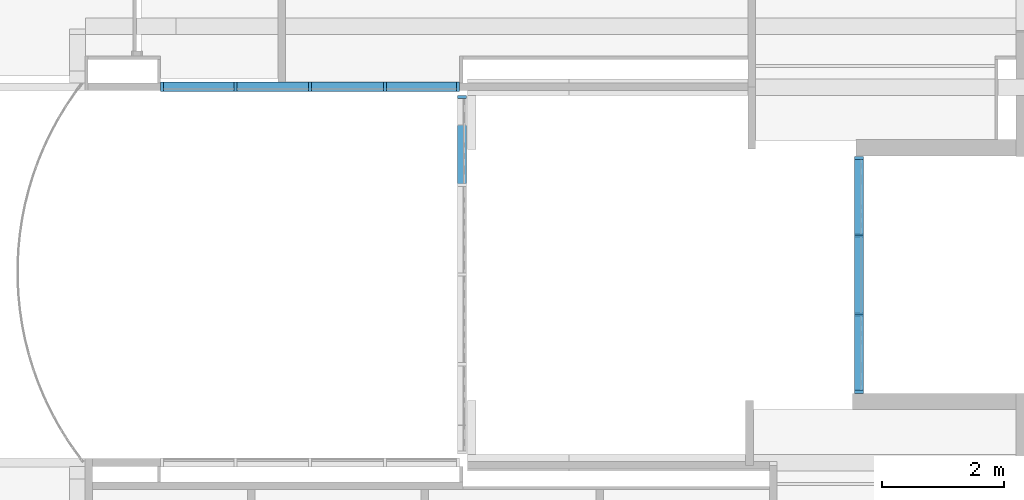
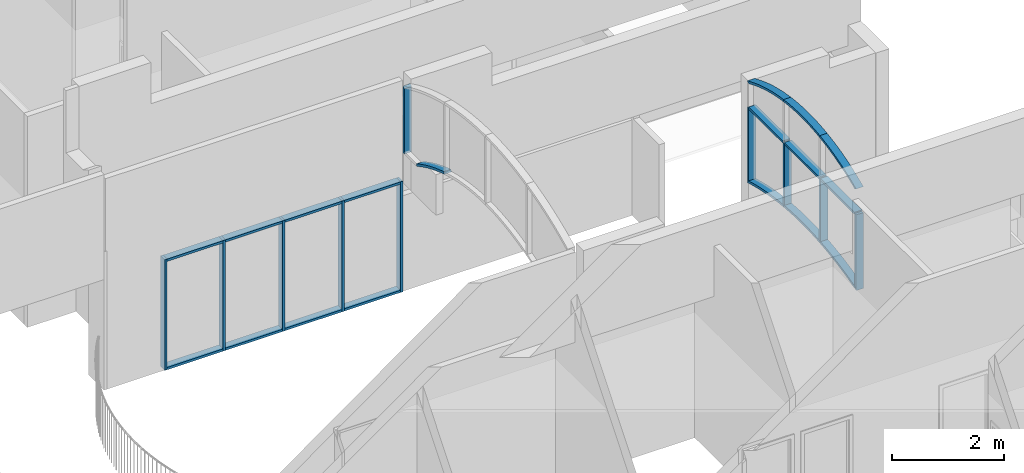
# One storey, part 3 of 45: 28 members, 3 elements without a shape of their own.
"""IFC2X3 building model written with IfcOpenShell, lengths in metres."""

from ifc_helpers import new_model, entity, si_unit, converted_unit, frame, frame_2d, origin, origin_2d_with_axis, place, context, project, spatial, polyline, circle_curve, parameter, trimmed, segment, composite_curve, rectangle, outline, extrude, source, transform, mapped, material, type_object, type_shapes, element, aggregate, save


model = new_model("IFC2X3")

# Units and contexts
model_context = context("Model", 3, precision=1e-09, world=origin())
plan_context = context("Plan", 3, precision=1e-09, world=origin())
ifc_project = project(units=[si_unit("LENGTHUNIT", "METRE"), si_unit("AREAUNIT", "SQUARE_METRE"), si_unit("VOLUMEUNIT", "CUBIC_METRE"), converted_unit("PLANEANGLEUNIT", "DEGREE", entity("IfcRatioMeasure", 0.01745329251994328), si_unit("PLANEANGLEUNIT", "RADIAN"), dimensions=[0, 0, 0, 0, 0, 0, 0]), si_unit("TIMEUNIT", "SECOND")], contexts=[model_context, plan_context])

# Site, building, storey
site_placement = place(None, origin())
site = spatial("IfcSite", under=ifc_project, at=site_placement, Name="Default", CompositionType="ELEMENT")
building_placement = place(site_placement, origin())
building = spatial("IfcBuilding", under=site, at=building_placement, CompositionType="ELEMENT")
storey_placement = place(building_placement, frame((0.0, 0.0, 4.570000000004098)))
storey = spatial("IfcBuildingStorey", under=building, at=storey_placement, Name="Second Floor", CompositionType="ELEMENT", Elevation=4.570000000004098)

# Curtain wall, members
curtain_wall_1_placement = place(storey_placement, origin())
curtain_wall_1 = element("IfcCurtainWall", 1, at=curtain_wall_1_placement, inside=storey, Name="Curtain Wall:Storefront", ObjectType="Curtain Wall:Storefront")
ifc_material = material(Name="Metal - Aluminium")
member_type_1 = type_object("IfcMemberType", Name="50 x 150mm", PredefinedType="MULLION")
shared_shape_1 = source(origin(), model_context, "Body", "SweptSolid", [
    extrude(rectangle(XDim=0.05, YDim=0.15, at=origin_2d_with_axis()), frame((0.0, 0.0, -2.399999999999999), z_axis=(0.0, 0.0, 1.0), x_axis=(-1.0, 0.0, 0.0)), (0.0, 0.0, 1.0), 2.399999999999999),
])
type_shapes(member_type_1, [shared_shape_1])
member_1_placement = place(storey_placement, frame((-11.4271133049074, 34.77180159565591, 0.0), z_axis=(0.0, 0.0, -1.0), x_axis=(-1.0, 0.0, 0.0)))
member_1 = element("IfcMember", 2, at=member_1_placement, type_object=member_type_1, material=ifc_material, Name="Rectangular Mullion:50 x 150mm:50 x 150mm", ObjectType="50 x 150mm", context=model_context, shape_type="MappedRepresentation", body=[
    mapped(shared_shape_1, transform((0.0, 0.0, 0.0), scale=1.0)),
])
member_2_placement = place(storey_placement, frame((-12.649806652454, 34.77180159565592, 0.0), z_axis=(0.0, 0.0, -1.0), x_axis=(-1.0, 0.0, 0.0)))
member_2 = element("IfcMember", 3, at=member_2_placement, type_object=member_type_1, material=ifc_material, Name="Rectangular Mullion:50 x 150mm:50 x 150mm", ObjectType="50 x 150mm", context=model_context, shape_type="MappedRepresentation", body=[
    mapped(shared_shape_1, transform((0.0, 0.0, 0.0), scale=1.0)),
])
member_3_placement = place(storey_placement, frame((-10.20441995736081, 34.7718015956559, 0.0), z_axis=(0.0, 0.0, -1.0), x_axis=(-1.0, 0.0, 0.0)))
member_3 = element("IfcMember", 4, at=member_3_placement, type_object=member_type_1, material=ifc_material, Name="Rectangular Mullion:50 x 150mm:50 x 150mm", ObjectType="50 x 150mm", context=model_context, shape_type="MappedRepresentation", body=[
    mapped(shared_shape_1, transform((0.0, 0.0, 0.0), scale=1.0)),
])
member_type_2 = type_object("IfcMemberType", Name="50 x 150mm", PredefinedType="MULLION")
shared_shape_2 = source(origin(), model_context, "Body", "SweptSolid", [
    extrude(rectangle(XDim=0.05, YDim=0.15, at=origin_2d_with_axis()), frame((-0.025, 0.0, -2.399999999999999), z_axis=(0.0, 0.0, 1.0), x_axis=(-1.0, 0.0, 0.0)), (0.0, 0.0, 1.0), 2.399999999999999),
])
type_shapes(member_type_2, [shared_shape_2])
member_4_placement = place(storey_placement, frame((-13.8725000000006, 34.77180159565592, 0.0), z_axis=(0.0, 0.0, -1.0), x_axis=(-1.0, 0.0, 0.0)))
member_4 = element("IfcMember", 5, at=member_4_placement, type_object=member_type_2, material=ifc_material, Name="Rectangular Mullion:50 x 150mm:50 x 150mm", ObjectType="50 x 150mm", context=model_context, shape_type="MappedRepresentation", body=[
    mapped(shared_shape_2, transform((0.0, 0.0, 0.0), scale=1.0)),
])
member_type_3 = type_object("IfcMemberType", Name="50 x 150mm", PredefinedType="MULLION")
shared_shape_3 = source(origin(), model_context, "Body", "SweptSolid", [
    extrude(rectangle(XDim=0.05, YDim=0.15, at=origin_2d_with_axis()), frame((-0.025, 0.0, -1.172693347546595), z_axis=(0.0, 0.0, 1.0), x_axis=(-1.0, 0.0, 0.0)), (0.0, 0.0, 1.0), 1.172693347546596),
])
type_shapes(member_type_3, [shared_shape_3])
member_5_placement = place(storey_placement, frame((-11.4021133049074, 34.77180159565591, 2.399999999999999), z_axis=(-1.0, 0.0, 0.0), x_axis=(0.0, 0.0, 1.0)))
member_5 = element("IfcMember", 6, at=member_5_placement, type_object=member_type_3, material=ifc_material, Name="Rectangular Mullion:50 x 150mm:50 x 150mm", ObjectType="50 x 150mm", context=model_context, shape_type="MappedRepresentation", body=[
    mapped(shared_shape_3, transform((0.0, 0.0, 0.0), scale=1.0)),
])
member_6_placement = place(storey_placement, frame((-12.624806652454, 34.77180159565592, 2.399999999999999), z_axis=(-1.0, 0.0, 0.0), x_axis=(0.0, 0.0, 1.0)))
member_6 = element("IfcMember", 7, at=member_6_placement, type_object=member_type_3, material=ifc_material, Name="Rectangular Mullion:50 x 150mm:50 x 150mm", ObjectType="50 x 150mm", context=model_context, shape_type="MappedRepresentation", body=[
    mapped(shared_shape_3, transform((0.0, 0.0, 0.0), scale=1.0)),
])
member_type_4 = type_object("IfcMemberType", Name="50 x 150mm", PredefinedType="MULLION")
type_shapes(member_type_4, [shared_shape_3])
member_7_placement = place(storey_placement, frame((-11.4521133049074, 34.77180159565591, 0.0), z_axis=(1.0, 0.0, 0.0), x_axis=(0.0, 0.0, -1.0)))
member_7 = element("IfcMember", 8, at=member_7_placement, type_object=member_type_4, material=ifc_material, Name="Rectangular Mullion:50 x 150mm:50 x 150mm", ObjectType="50 x 150mm", context=model_context, shape_type="MappedRepresentation", body=[
    mapped(shared_shape_3, transform((0.0, 0.0, 0.0), scale=1.0)),
])
member_8_placement = place(storey_placement, frame((-10.22941995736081, 34.7718015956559, 0.0), z_axis=(1.0, 0.0, 0.0), x_axis=(0.0, 0.0, -1.0)))
member_8 = element("IfcMember", 9, at=member_8_placement, type_object=member_type_4, material=ifc_material, Name="Rectangular Mullion:50 x 150mm:50 x 150mm", ObjectType="50 x 150mm", context=model_context, shape_type="MappedRepresentation", body=[
    mapped(shared_shape_3, transform((0.0, 0.0, 0.0), scale=1.0)),
])
member_type_5 = type_object("IfcMemberType", Name="50 x 150mm", PredefinedType="MULLION")
shared_shape_4 = source(origin(), model_context, "Body", "SweptSolid", [
    extrude(rectangle(XDim=0.05, YDim=0.15, at=origin_2d_with_axis()), frame((-0.025, 0.0, -1.147693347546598), z_axis=(0.0, 0.0, 1.0), x_axis=(-1.0, 0.0, 0.0)), (0.0, 0.0, 1.0), 1.147693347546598),
])
type_shapes(member_type_5, [shared_shape_4])
member_9_placement = place(storey_placement, frame((-9.031726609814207, 34.7718015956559, 0.0), z_axis=(1.0, 0.0, 0.0), x_axis=(0.0, 0.0, -1.0)))
member_9 = element("IfcMember", 10, at=member_9_placement, type_object=member_type_5, material=ifc_material, Name="Rectangular Mullion:50 x 150mm:50 x 150mm", ObjectType="50 x 150mm", context=model_context, shape_type="MappedRepresentation", body=[
    mapped(shared_shape_4, transform((0.0, 0.0, 0.0), scale=1.0)),
])
member_10_placement = place(storey_placement, frame((-12.674806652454, 34.77180159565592, 0.0), z_axis=(1.0, 0.0, 0.0), x_axis=(0.0, 0.0, -1.0)))
member_10 = element("IfcMember", 11, at=member_10_placement, type_object=member_type_5, material=ifc_material, Name="Rectangular Mullion:50 x 150mm:50 x 150mm", ObjectType="50 x 150mm", context=model_context, shape_type="MappedRepresentation", body=[
    mapped(shared_shape_4, transform((0.0, 0.0, 0.0), scale=1.0)),
])
member_type_6 = type_object("IfcMemberType", Name="50 x 150mm", PredefinedType="MULLION")
shared_shape_5 = source(origin(), model_context, "Body", "SweptSolid", [
    extrude(rectangle(XDim=0.05, YDim=0.15, at=origin_2d_with_axis()), frame((-0.025, 0.0, -1.147693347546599), z_axis=(0.0, 0.0, 1.0), x_axis=(-1.0, 0.0, 0.0)), (0.0, 0.0, 1.0), 1.147693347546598),
])
type_shapes(member_type_6, [shared_shape_5])
member_11_placement = place(storey_placement, frame((-13.8225000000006, 34.77180159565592, 2.399999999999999), z_axis=(-1.0, 0.0, 0.0), x_axis=(0.0, 0.0, 1.0)))
member_11 = element("IfcMember", 12, at=member_11_placement, type_object=member_type_6, material=ifc_material, Name="Rectangular Mullion:50 x 150mm:50 x 150mm", ObjectType="50 x 150mm", context=model_context, shape_type="MappedRepresentation", body=[
    mapped(shared_shape_5, transform((0.0, 0.0, 0.0), scale=1.0)),
])
member_12_placement = place(storey_placement, frame((-10.17941995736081, 34.7718015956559, 2.399999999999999), z_axis=(-1.0, 0.0, 0.0), x_axis=(0.0, 0.0, 1.0)))
member_12 = element("IfcMember", 13, at=member_12_placement, type_object=member_type_6, material=ifc_material, Name="Rectangular Mullion:50 x 150mm:50 x 150mm", ObjectType="50 x 150mm", context=model_context, shape_type="MappedRepresentation", body=[
    mapped(shared_shape_5, transform((0.0, 0.0, 0.0), scale=1.0)),
])
member_type_7 = type_object("IfcMemberType", Name="50 x 150mm", PredefinedType="MULLION")
shared_shape_6 = source(origin(), model_context, "Body", "SweptSolid", [
    extrude(rectangle(XDim=0.05, YDim=0.15, at=origin_2d_with_axis()), frame((-0.025, 0.0, -2.399999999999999), z_axis=(0.0, 0.0, 1.0), x_axis=(-1.0, 0.0, 0.0)), (0.0, 0.0, 1.0), 2.399999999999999),
])
type_shapes(member_type_7, [shared_shape_6])
member_13_placement = place(storey_placement, frame((-8.981726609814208, 34.7718015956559, 2.399999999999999)))
member_13 = element("IfcMember", 14, at=member_13_placement, type_object=member_type_7, material=ifc_material, Name="Rectangular Mullion:50 x 150mm:50 x 150mm", ObjectType="50 x 150mm", context=model_context, shape_type="MappedRepresentation", body=[
    mapped(shared_shape_6, transform((0.0, 0.0, 0.0), scale=1.0)),
])
aggregate(curtain_wall_1, [member_13, member_1, member_2, member_3, member_9, member_5, member_10, member_11, member_12, member_6, member_7, member_4, member_8])

curtain_wall_2_placement = place(storey_placement, origin())
curtain_wall_2 = element("IfcCurtainWall", 15, at=curtain_wall_2_placement, inside=storey, Name="Curtain Wall:Storefront", ObjectType="Curtain Wall:Storefront")
member_type_8 = type_object("IfcMemberType", Name="50 x 150mm", PredefinedType="MULLION")
shared_shape_7 = source(origin(), model_context, "Body", "SweptSolid", [
    extrude(rectangle(XDim=0.05, YDim=0.15, at=origin_2d_with_axis()), frame((0.0, 0.0, -1.215000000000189), z_axis=(0.0, 0.0, 1.0), x_axis=(-1.0, 0.0, 0.0)), (0.0, 0.0, 1.0), 1.215000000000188),
])
type_shapes(member_type_8, [shared_shape_7])
member_14_placement = place(storey_placement, frame((-2.454499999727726, 32.36499999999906, 2.399999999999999), z_axis=(0.0, -1.0, 0.0), x_axis=(0.0, 0.0, 1.0)))
member_14 = element("IfcMember", 16, at=member_14_placement, type_object=member_type_8, material=ifc_material, Name="Rectangular Mullion:50 x 150mm:50 x 150mm", ObjectType="50 x 150mm", context=model_context, shape_type="MappedRepresentation", body=[
    mapped(shared_shape_7, transform((0.0, 0.0, 0.0), scale=1.0)),
])
member_15_placement = place(storey_placement, frame((-2.45449999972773, 29.8099999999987, 2.399999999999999), z_axis=(0.0, -1.0, 0.0), x_axis=(0.0, 0.0, 1.0)))
member_15 = element("IfcMember", 17, at=member_15_placement, type_object=member_type_8, material=ifc_material, Name="Rectangular Mullion:50 x 150mm:50 x 150mm", ObjectType="50 x 150mm", context=model_context, shape_type="MappedRepresentation", body=[
    mapped(shared_shape_7, transform((0.0, 0.0, 0.0), scale=1.0)),
])
member_type_9 = type_object("IfcMemberType", Name="50 x 150mm", PredefinedType="MULLION")
shared_shape_8 = source(origin(), model_context, "Body", "SweptSolid", [
    extrude(outline(composite_curve([segment(polyline([(-0.4504894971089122, -0.02173768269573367), (0.8971603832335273, -0.02173768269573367)]), True, "CONTINUOUS"), segment(polyline([(0.8971603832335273, -0.02173768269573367), (0.8971603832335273, 0.02826231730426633)]), True, "CONTINUOUS"), segment(polyline([(0.8971603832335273, 0.02826231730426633), (-0.4457875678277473, 0.02826231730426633)]), True, "CONTINUOUS"), segment(trimmed(circle_curve(frame_2d((-7.307025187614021, 0.6482623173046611), x_axis=(0.9955429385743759, 0.09430937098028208)), 6.889193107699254), [parameter(349.176857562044)], [parameter(349.4250503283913)], True, "PARAMETER"), False, "CONTINUOUS"), segment(polyline([(-0.4485376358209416, -0.001453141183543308), (-0.4495060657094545, -0.01159612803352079)]), True, "CONTINUOUS"), segment(polyline([(-0.4495060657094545, -0.01159612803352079), (-0.4504894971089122, -0.02173768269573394)]), True, "CONTINUOUS")], self_intersect=False)), frame((0.003262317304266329, -0.07499999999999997, -0.4983147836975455), z_axis=(0.0, 1.0, 0.0), x_axis=(0.0, 0.0, -1.0)), (0.0, 0.0, 1.0), 0.15),
])
type_shapes(member_type_9, [shared_shape_8])
member_16_placement = place(storey_placement, frame((-2.454499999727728, 31.04999999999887, 1.004524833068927), z_axis=(0.0, 0.0, -1.0), x_axis=(0.0, -1.0, 0.0)))
member_16 = element("IfcMember", 18, at=member_16_placement, type_object=member_type_9, material=ifc_material, Name="Rectangular Mullion:50 x 150mm:50 x 150mm", ObjectType="50 x 150mm", context=model_context, shape_type="MappedRepresentation", body=[
    mapped(shared_shape_8, transform((0.0, 0.0, 0.0), scale=1.0)),
])
member_type_10 = type_object("IfcMemberType", Name="50 x 150mm", PredefinedType="MULLION")
shared_shape_9 = source(origin(), model_context, "Body", "SweptSolid", [
    extrude(outline(composite_curve([segment(polyline([(0.03522795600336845, -0.6399335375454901), (0.08522795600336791, -0.6399335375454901)]), True, "CONTINUOUS"), segment(trimmed(circle_curve(frame_2d((-6.803965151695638, -0.6399335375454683), x_axis=(0.9815489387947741, 0.1912110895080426)), 6.889193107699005), [parameter(348.9765295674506)], [parameter(359.4473398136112)], True, "PARAMETER"), True, "CONTINUOUS"), segment(polyline([(-0.02949349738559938, 0.612071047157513), (-0.0909624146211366, 0.6677960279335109)]), True, "CONTINUOUS"), segment(trimmed(circle_curve(frame_2d((-6.803965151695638, -0.6399335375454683), x_axis=(0.9815489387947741, 0.1912110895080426)), 6.839193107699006), [parameter(348.9765295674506)], [parameter(359.9999999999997)], True, "PARAMETER"), False, "CONTINUOUS")], self_intersect=False)), frame((0.03840594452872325, -0.07499999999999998, -0.6728675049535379), z_axis=(0.0, 1.0, 0.0), x_axis=(-0.9815489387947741, 0.0, -0.1912110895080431)), (0.0, 0.0, 1.0), 0.1499999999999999),
])
type_shapes(member_type_10, [shared_shape_9])
member_17_placement = place(storey_placement, frame((-2.454499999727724, 33.62999999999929, 0.7555657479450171), z_axis=(0.0, 0.9591411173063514, -0.2829281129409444), x_axis=(0.0, -0.2829281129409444, -0.9591411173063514)))
member_17 = element("IfcMember", 19, at=member_17_placement, type_object=member_type_10, material=ifc_material, Name="Rectangular Mullion:50 x 150mm:50 x 150mm", ObjectType="50 x 150mm", context=model_context, shape_type="MappedRepresentation", body=[
    mapped(shared_shape_9, transform((0.0, 0.0, 0.0), scale=1.0)),
])
member_type_11 = type_object("IfcMemberType", Name="50 x 150mm", PredefinedType="MULLION")
shared_shape_10 = source(origin(), model_context, "Body", "SweptSolid", [
    extrude(outline(polyline([(-0.8389368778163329, -0.025), (0.8054973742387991, -0.025), (0.8054973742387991, 0.025), (-0.7720578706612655, 0.025), (-0.8389368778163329, -0.025)])), frame((-0.025, -0.07499999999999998, -0.8389368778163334), z_axis=(0.0, 1.0, 0.0), x_axis=(0.0, 0.0, -1.0)), (0.0, 0.0, 1.0), 0.15),
])
type_shapes(member_type_11, [shared_shape_10])
member_18_placement = place(storey_placement, frame((-2.45449999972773, 29.75999999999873, 0.7555657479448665), z_axis=(0.0, 0.0, -1.0), x_axis=(0.0, -1.0, 0.0)))
member_18 = element("IfcMember", 20, at=member_18_placement, type_object=member_type_11, material=ifc_material, Name="Rectangular Mullion:50 x 150mm:50 x 150mm", ObjectType="50 x 150mm", context=model_context, shape_type="MappedRepresentation", body=[
    mapped(shared_shape_10, transform((0.0, 0.0, 0.0), scale=1.0)),
])
member_type_12 = type_object("IfcMemberType", Name="50 x 150mm", PredefinedType="MULLION")
shared_shape_11 = source(origin(), model_context, "Body", "SweptSolid", [
    extrude(outline(composite_curve([segment(polyline([(-0.1191200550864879, -0.6535333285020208), (-0.06912005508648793, -0.6535333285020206)]), True, "CONTINUOUS"), segment(trimmed(circle_curve(frame_2d((4.53857932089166, -0.6535333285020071), x_axis=(-0.9583864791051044, 0.2854739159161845)), 4.607699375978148), [parameter(0.4004577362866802)], [parameter(16.58717889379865)], True, "PARAMETER"), False, "CONTINUOUS"), segment(polyline([(0.1135368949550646, 0.6309483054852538), (0.07470321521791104, 0.6761183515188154)]), True, "CONTINUOUS"), segment(trimmed(circle_curve(frame_2d((4.53857932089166, -0.6535333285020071), x_axis=(-0.9583864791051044, 0.2854739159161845)), 4.657699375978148), [parameter(3.562221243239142e-13)], [parameter(16.58717889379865)], True, "PARAMETER"), True, "CONTINUOUS")], self_intersect=False)), frame((-0.121419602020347, -0.07499999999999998, -0.6693085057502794), z_axis=(0.0, 1.0, 0.0), x_axis=(-0.9583864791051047, 0.0, 0.2854739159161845)), (0.0, 0.0, 1.0), 0.15),
])
type_shapes(member_type_12, [shared_shape_11])
member_19_placement = place(storey_placement, frame((-2.45449999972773, 29.75999999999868, 2.964012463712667), z_axis=(0.0, -0.9096200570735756, -0.4154411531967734), x_axis=(0.0, -0.4154411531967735, 0.9096200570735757)))
member_19 = element("IfcMember", 21, at=member_19_placement, type_object=member_type_12, material=ifc_material, Name="Rectangular Mullion:50 x 150mm:50 x 150mm", ObjectType="50 x 150mm", context=model_context, shape_type="MappedRepresentation", body=[
    mapped(shared_shape_11, transform((0.0, 0.0, 0.0), scale=1.0)),
])
member_type_13 = type_object("IfcMemberType", Name="50 x 150mm", PredefinedType="MULLION")
shared_shape_12 = source(origin(), model_context, "Body", "SweptSolid", [
    extrude(outline(composite_curve([segment(polyline([(-0.4461808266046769, -0.02409578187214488), (0.8967671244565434, -0.02409578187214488)]), True, "CONTINUOUS"), segment(polyline([(0.8967671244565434, -0.02409578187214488), (0.8967671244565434, 0.02590421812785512)]), True, "CONTINUOUS"), segment(polyline([(0.8967671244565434, 0.02590421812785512), (-0.4508827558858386, 0.02590421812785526)]), True, "CONTINUOUS"), segment(trimmed(circle_curve(frame_2d((-7.30741844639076, -0.6440957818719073), x_axis=(0.9591411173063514, 0.2829281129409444)), 6.889193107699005), [parameter(348.9765295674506)], [parameter(349.1460104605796)], True, "PARAMETER"), False, "CONTINUOUS"), segment(polyline([(-0.4489308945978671, 0.005619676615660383), (-0.4475397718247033, -0.009236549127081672)]), True, "CONTINUOUS"), segment(polyline([(-0.4475397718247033, -0.009236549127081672), (-0.4461808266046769, -0.02409578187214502)]), True, "CONTINUOUS")], self_intersect=False)), frame((0.0009042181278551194, -0.07499999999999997, -0.4987080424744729), z_axis=(0.0, 1.0, 0.0), x_axis=(0.0, 0.0, -1.0)), (0.0, 0.0, 1.0), 0.15),
])
type_shapes(member_type_13, [shared_shape_12])
member_20_placement = place(storey_placement, frame((-2.454499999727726, 32.33999999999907, 1.004524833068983), z_axis=(0.0, 0.0, -1.0), x_axis=(0.0, -1.0, 0.0)))
member_20 = element("IfcMember", 22, at=member_20_placement, type_object=member_type_13, material=ifc_material, Name="Rectangular Mullion:50 x 150mm:50 x 150mm", ObjectType="50 x 150mm", context=model_context, shape_type="MappedRepresentation", body=[
    mapped(shared_shape_12, transform((0.0, 0.0, 0.0), scale=1.0)),
])
member_type_14 = type_object("IfcMemberType", Name="50 x 150mm", PredefinedType="MULLION")
shared_shape_13 = source(origin(), model_context, "Body", "SweptSolid", [
    extrude(outline(composite_curve([segment(trimmed(circle_curve(frame_2d((3.454349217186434, 3.015506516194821), x_axis=(-0.65191805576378, -0.758289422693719)), 4.657699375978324), [parameter(343.412821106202)], [parameter(359.9999999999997)], True, "PARAMETER"), True, "CONTINUOUS"), segment(polyline([(0.4179108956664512, -0.516377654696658), (0.4505067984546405, -0.4784631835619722)]), True, "CONTINUOUS"), segment(trimmed(circle_curve(frame_2d((3.454349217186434, 3.015506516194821), x_axis=(-0.65191805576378, -0.758289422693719)), 4.607699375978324), [parameter(343.8132788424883)], [parameter(359.9999999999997)], True, "PARAMETER"), False, "CONTINUOUS"), segment(polyline([(-0.4044246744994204, 0.4974204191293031), (-0.463993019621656, 0.4974204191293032)]), True, "CONTINUOUS")], self_intersect=False)), frame((-0.1191200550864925, -0.07499999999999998, -0.6535333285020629), z_axis=(0.0, -1.0, 0.0), x_axis=(-0.6519180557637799, 0.0, 0.7582894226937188)), (0.0, 0.0, -1.0), 0.1499999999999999),
])
type_shapes(member_type_14, [shared_shape_13])
member_21_placement = place(storey_placement, frame((-2.454499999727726, 32.33999999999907, 3.340098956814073), z_axis=(0.0, -0.9903651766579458, 0.1384803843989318), x_axis=(0.0, 0.1384803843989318, 0.9903651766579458)))
member_21 = element("IfcMember", 23, at=member_21_placement, type_object=member_type_14, material=ifc_material, Name="Rectangular Mullion:50 x 150mm:50 x 150mm", ObjectType="50 x 150mm", context=model_context, shape_type="MappedRepresentation", body=[
    mapped(shared_shape_13, transform((0.0, 0.0, 0.0), scale=1.0)),
])
member_type_15 = type_object("IfcMemberType", Name="50 x 150mm", PredefinedType="MULLION")
shared_shape_14 = source(origin(), model_context, "Body", "SweptSolid", [
    extrude(outline(composite_curve([segment(polyline([(0.03605190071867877, -0.6444724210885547), (0.08605190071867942, -0.6444724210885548)]), True, "CONTINUOUS"), segment(trimmed(circle_curve(frame_2d((-6.803141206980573, -0.6444724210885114), x_axis=(0.9822114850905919, 0.187778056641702)), 6.889193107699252), [parameter(349.176857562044)], [parameter(359.9999999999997)], True, "PARAMETER"), True, "CONTINUOUS"), segment(polyline([(-0.03649661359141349, 0.6491668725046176), (-0.08560718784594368, 0.6397779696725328)]), True, "CONTINUOUS"), segment(trimmed(circle_curve(frame_2d((-6.803141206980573, -0.6444724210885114), x_axis=(0.9822114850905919, 0.187778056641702)), 6.839193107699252), [parameter(349.176857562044)], [parameter(359.9999999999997)], True, "PARAMETER"), False, "CONTINUOUS")], self_intersect=False)), frame((0.03605190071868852, -0.07499999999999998, -0.6444724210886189), z_axis=(0.0, 1.0, 0.0), x_axis=(-0.9822114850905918, 0.0, -0.1877780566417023)), (0.0, 0.0, 1.0), 0.15),
])
type_shapes(member_type_15, [shared_shape_14])
member_22_placement = place(storey_placement, frame((-2.454499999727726, 32.33999999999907, 1.004524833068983), z_axis=(0.0, 0.9955429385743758, -0.09430937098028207), x_axis=(0.0, -0.09430937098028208, -0.9955429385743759)))
member_22 = element("IfcMember", 24, at=member_22_placement, type_object=member_type_15, material=ifc_material, Name="Rectangular Mullion:50 x 150mm:50 x 150mm", ObjectType="50 x 150mm", context=model_context, shape_type="MappedRepresentation", body=[
    mapped(shared_shape_14, transform((0.0, 0.0, 0.0), scale=1.0)),
])

# Curtain wall, member
curtain_wall_3_placement = place(storey_placement, origin())
curtain_wall_3 = element("IfcCurtainWall", 25, at=curtain_wall_3_placement, inside=storey, Name="Curtain Wall:Storefront", ObjectType="Curtain Wall:Storefront")
member_type_16 = type_object("IfcMemberType", Name="50 x 150mm", PredefinedType="MULLION")
shared_shape_15 = source(origin(), model_context, "Body", "SweptSolid", [
    extrude(outline(polyline([(-0.7321871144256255, -0.025), (0.7168681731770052, -0.025), (0.7168681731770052, 0.025), (-0.7015492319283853, 0.025), (-0.7321871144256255, -0.025)])), frame((-0.025, -0.07499999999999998, -0.7321871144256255), z_axis=(0.0, 1.0, 0.0), x_axis=(0.0, 0.0, -1.0)), (0.0, 0.0, 1.0), 0.15),
])
type_shapes(member_type_16, [shared_shape_15])
member_23_placement = place(storey_placement, frame((-8.945999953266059, 34.62999999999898, 4.51905528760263), z_axis=(0.0, 0.0, 1.0), x_axis=(0.0, 1.0, 0.0)))
member_23 = element("IfcMember", 26, at=member_23_placement, type_object=member_type_16, material=ifc_material, Name="Rectangular Mullion:50 x 150mm:50 x 150mm", ObjectType="50 x 150mm", context=model_context, shape_type="MappedRepresentation", body=[
    mapped(shared_shape_15, transform((0.0, 0.0, 0.0), scale=1.0)),
])

# Member
member_type_17 = type_object("IfcMemberType", Name="50 x 150mm", PredefinedType="MULLION")
shared_shape_16 = source(origin(), model_context, "Body", "SweptSolid", [
    extrude(outline(composite_curve([segment(polyline([(-0.1138404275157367, -0.6353568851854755), (-0.06384042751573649, -0.6353568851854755)]), True, "CONTINUOUS"), segment(trimmed(circle_curve(frame_2d((4.543858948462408, -0.6353568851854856), x_axis=(-0.9616463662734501, 0.2742923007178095)), 4.607699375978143), [parameter(3.562221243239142e-13)], [parameter(15.91984435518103)], True, "PARAMETER"), False, "CONTINUOUS"), segment(polyline([(0.1128815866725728, 0.6284995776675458), (0.06479926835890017, 0.642214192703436)]), True, "CONTINUOUS"), segment(trimmed(circle_curve(frame_2d((4.543858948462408, -0.6353568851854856), x_axis=(-0.9616463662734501, 0.2742923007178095)), 4.657699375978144), [parameter(3.562221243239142e-13)], [parameter(15.91984435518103)], True, "PARAMETER"), True, "CONTINUOUS")], self_intersect=False)), frame((-0.1138404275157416, -0.07499999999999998, -0.6353568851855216), z_axis=(0.0, 1.0, 0.0), x_axis=(-0.9616463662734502, 0.0, 0.2742923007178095)), (0.0, 0.0, 1.0), 0.15),
])
type_shapes(member_type_17, [shared_shape_16])
member_24_placement = place(storey_placement, frame((-2.454499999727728, 31.04999999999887, 3.340098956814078), z_axis=(0.0, -0.9903651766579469, -0.1384803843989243), x_axis=(0.0, -0.1384803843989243, 0.9903651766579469)))
member_24 = element("IfcMember", 27, at=member_24_placement, type_object=member_type_17, material=ifc_material, Name="Rectangular Mullion:50 x 150mm:50 x 150mm", ObjectType="50 x 150mm", context=model_context, shape_type="MappedRepresentation", body=[
    mapped(shared_shape_16, transform((0.0, 0.0, 0.0), scale=1.0)),
])

member_type_18 = type_object("IfcMemberType", Name="50 x 150mm", PredefinedType="MULLION")
shared_shape_17 = source(origin(), model_context, "Body", "SweptSolid", [
    extrude(outline(composite_curve([segment(polyline([(0.03110008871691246, -0.5261002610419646), (0.08110008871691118, -0.5261002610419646)]), True, "CONTINUOUS"), segment(trimmed(circle_curve(frame_2d((-4.93389991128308, -0.5261002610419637), x_axis=(0.9772366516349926, 0.2121521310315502)), 5.014999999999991), [parameter(347.7514974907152)], [parameter(359.8494950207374)], True, "PARAMETER"), True, "CONTINUOUS"), segment(polyline([(-0.03028024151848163, 0.5249654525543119), (-0.08191993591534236, 0.5272350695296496)]), True, "CONTINUOUS"), segment(trimmed(circle_curve(frame_2d((-4.93389991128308, -0.5261002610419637), x_axis=(0.9772366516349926, 0.2121521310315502)), 4.964999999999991), [parameter(347.7514974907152)], [parameter(359.9999999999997)], True, "PARAMETER"), False, "CONTINUOUS")], self_intersect=False)), frame((0.03179887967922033, -0.07499999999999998, -0.5326129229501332), z_axis=(0.0, 1.0, 0.0), x_axis=(-0.9772366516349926, 0.0, -0.2121521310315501)), (0.0, 0.0, 1.0), 0.15),
])
type_shapes(member_type_18, [shared_shape_17])
member_25_placement = place(storey_placement, frame((-8.945999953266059, 34.13720858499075, 3.070000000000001), z_axis=(0.0, 0.870096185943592, -0.4928819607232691), x_axis=(0.0, -0.4928819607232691, -0.8700961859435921)))
member_25 = element("IfcMember", 28, at=member_25_placement, type_object=member_type_18, material=ifc_material, Name="Rectangular Mullion:50 x 150mm:50 x 150mm", ObjectType="50 x 150mm", context=model_context, shape_type="MappedRepresentation", body=[
    mapped(shared_shape_17, transform((0.0, 0.0, 0.0), scale=1.0)),
])

aggregate(curtain_wall_3, [member_23, member_25])

member_type_19 = type_object("IfcMemberType", Name="50 x 150mm", PredefinedType="MULLION")
shared_shape_18 = source(origin(), model_context, "Body", "SweptSolid", [
    extrude(rectangle(XDim=0.05, YDim=0.15, at=origin_2d_with_axis()), frame((0.0, 0.0, -1.240000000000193), z_axis=(0.0, 0.0, 1.0), x_axis=(-1.0, 0.0, 0.0)), (0.0, 0.0, 1.0), 1.240000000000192),
])
type_shapes(member_type_19, [shared_shape_18])
member_26_placement = place(storey_placement, frame((-2.454499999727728, 31.07499999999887, 2.399999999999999), z_axis=(0.0, -1.0, 0.0), x_axis=(0.0, 0.0, 1.0)))
member_26 = element("IfcMember", 29, at=member_26_placement, type_object=member_type_19, material=ifc_material, Name="Rectangular Mullion:50 x 150mm:50 x 150mm", ObjectType="50 x 150mm", context=model_context, shape_type="MappedRepresentation", body=[
    mapped(shared_shape_18, transform((0.0, 0.0, 0.0), scale=1.0)),
])

member_type_20 = type_object("IfcMemberType", Name="50 x 150mm", PredefinedType="MULLION")
shared_shape_19 = source(origin(), model_context, "Body", "SweptSolid", [
    extrude(outline(composite_curve([segment(polyline([(-0.5159126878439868, -0.4336586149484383), (-0.4329446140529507, -0.4336586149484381)]), True, "CONTINUOUS"), segment(trimmed(circle_curve(frame_2d((-4.611075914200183, 5.043950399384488), x_axis=(0.740874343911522, -0.6716436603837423)), 6.889193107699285), [parameter(349.5291897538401)], [parameter(359.9999999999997)], True, "PARAMETER"), True, "CONTINUOUS"), segment(polyline([(0.4929505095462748, 0.4168675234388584), (0.4559067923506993, 0.4504497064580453)]), True, "CONTINUOUS"), segment(trimmed(circle_curve(frame_2d((-4.611075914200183, 5.043950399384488), x_axis=(0.740874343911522, -0.6716436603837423)), 6.839193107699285), [parameter(348.9765295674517)], [parameter(359.9999999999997)], True, "PARAMETER"), False, "CONTINUOUS")], self_intersect=False)), frame((0.03522795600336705, -0.07499999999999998, -0.6399335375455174), z_axis=(0.0, 1.0, 0.0), x_axis=(-0.7408743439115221, 0.0, 0.6716436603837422)), (0.0, 0.0, 1.0), 0.15),
])
type_shapes(member_type_20, [shared_shape_19])
member_27_placement = place(storey_placement, frame((-2.454499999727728, 31.04999999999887, 1.004524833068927), z_axis=(0.0, 0.9955429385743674, 0.09430937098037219), x_axis=(0.0, 0.09430937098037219, -0.9955429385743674)))
member_27 = element("IfcMember", 30, at=member_27_placement, type_object=member_type_20, material=ifc_material, Name="Rectangular Mullion:50 x 150mm:50 x 150mm", ObjectType="50 x 150mm", context=model_context, shape_type="MappedRepresentation", body=[
    mapped(shared_shape_19, transform((0.0, 0.0, 0.0), scale=1.0)),
])

member_type_21 = type_object("IfcMemberType", Name="50 x 150mm", PredefinedType="MULLION")
shared_shape_20 = source(origin(), model_context, "Body", "SweptSolid", [
    extrude(outline(polyline([(-0.8054973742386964, -0.025), (0.838936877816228, -0.025), (0.7720578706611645, 0.025), (-0.8054973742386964, 0.025), (-0.8054973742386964, -0.025)])), frame((-0.025, -0.07499999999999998, -0.8054973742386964), z_axis=(0.0, 1.0, 0.0), x_axis=(0.0, 0.0, -1.0)), (0.0, 0.0, 1.0), 0.15),
])
type_shapes(member_type_21, [shared_shape_20])
member_28_placement = place(storey_placement, frame((-2.454499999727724, 33.62999999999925, 2.399999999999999), z_axis=(0.0, 0.0, 1.0), x_axis=(0.0, 1.0, 0.0)))
member_28 = element("IfcMember", 31, at=member_28_placement, type_object=member_type_21, material=ifc_material, Name="Rectangular Mullion:50 x 150mm:50 x 150mm", ObjectType="50 x 150mm", context=model_context, shape_type="MappedRepresentation", body=[
    mapped(shared_shape_20, transform((0.0, 0.0, 0.0), scale=1.0)),
])

aggregate(curtain_wall_2, [member_24, member_21, member_19, member_16, member_18, member_22, member_20, member_27, member_17, member_14, member_28, member_26, member_15])

save(model, "model.ifc")
